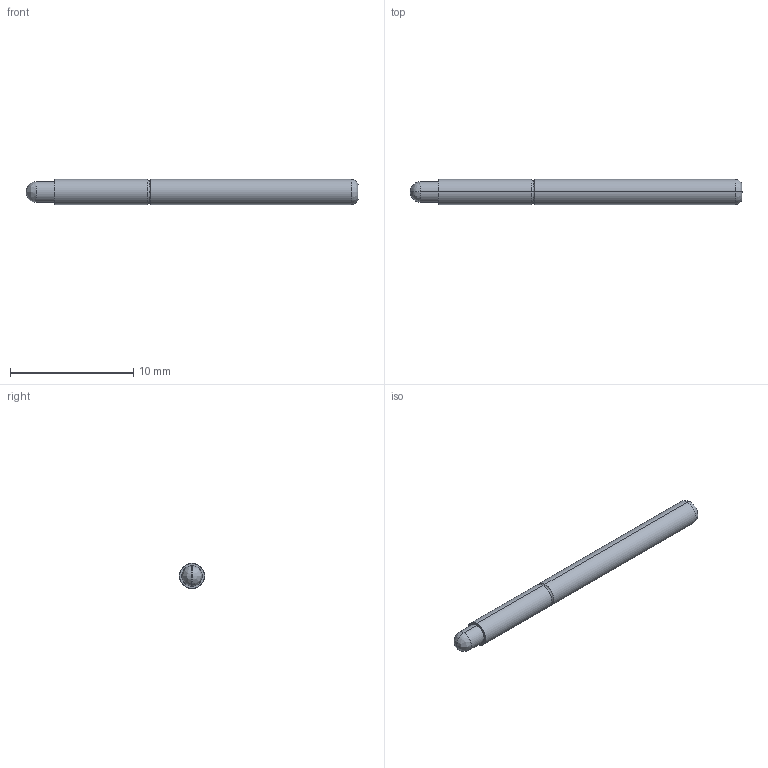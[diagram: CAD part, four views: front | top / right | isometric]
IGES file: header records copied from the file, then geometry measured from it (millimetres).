
Start section: SolidWorks IGES file using analytic representation for surfaces
Global section: file name: O:\PYLON\IGES FILES\P2665\P2665G-1R1S FULL.IGS; native system: SolidWorks 2015; preprocessor: SolidWorks 2015; author: kgolden; date: 171019.133206; units: inch
Bounding box: 26.92 x 2.03 x 2.03 mm (x, y, z)
Surface area: 182 mm2 (no closed solid volume)
Topology: 0 solids, 0 shells, 19 faces, 136 edges, 136 vertices
Faces by surface type: bspline 11, revolution 8
